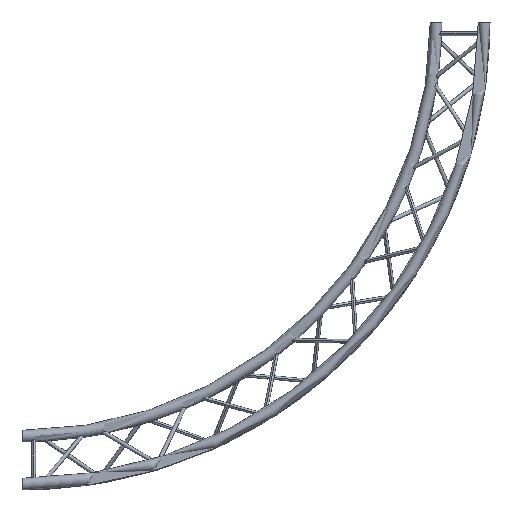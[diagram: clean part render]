
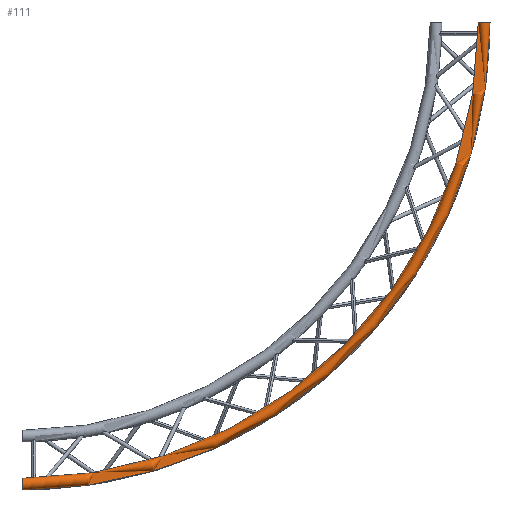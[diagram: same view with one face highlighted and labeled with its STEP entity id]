
A CAD part, front view. The second image highlights one B-rep face of the part: STEP entity #111.
In plain terms, the highlighted toroidal (fillet/blend) face has major radius 1975 mm and minor radius 25 mm.
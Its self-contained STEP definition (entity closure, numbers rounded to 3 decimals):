
#111 = ADVANCED_FACE ( 'NONE', ( #1879 ), #1910, .T. ) ;
#124 = EDGE_LOOP ( 'NONE', ( #151, #158, #159, #2348 ) ) ;
#151 = ORIENTED_EDGE ( 'NONE', *, *, #8514, .T. ) ;
#152 = VERTEX_POINT ( 'NONE', #2179 ) ;
#158 = ORIENTED_EDGE ( 'NONE', *, *, #4381, .T. ) ;
#159 = ORIENTED_EDGE ( 'NONE', *, *, #162, .F. ) ;
#162 = EDGE_CURVE ( 'NONE', #163, #4411, #1903, .T. ) ;
#163 = VERTEX_POINT ( 'NONE', #2278 ) ;
#1879 = FACE_OUTER_BOUND ( 'NONE', #124, .T. ) ;
#1899 = DIRECTION ( 'NONE',  ( 0., 0., 1. ) ) ;
#1900 = CARTESIAN_POINT ( 'NONE',  ( 1975., -118.5, 0. ) ) ;
#1902 = AXIS2_PLACEMENT_3D ( 'NONE', #1900, #1899, #2170 ) ;
#1903 = CIRCLE ( 'NONE', #1902, 25. ) ;
#1905 = DIRECTION ( 'NONE',  ( 0., 0., -1. ) ) ;
#1906 = DIRECTION ( 'NONE',  ( 0., -1., 0. ) ) ;
#1907 = AXIS2_PLACEMENT_3D ( 'NONE', #1909, #1906, #1905 ) ;
#1909 = CARTESIAN_POINT ( 'NONE',  ( 0., -118.5, 0. ) ) ;
#1910 = TOROIDAL_SURFACE ( 'NONE', #1907, 1975., 25. ) ;
#2170 = DIRECTION ( 'NONE',  ( 1., 0., 0. ) ) ;
#2179 = CARTESIAN_POINT ( 'NONE',  ( 0., -118.5, -1950. ) ) ;
#2278 = CARTESIAN_POINT ( 'NONE',  ( 1950., -118.5, 0. ) ) ;
#2348 = ORIENTED_EDGE ( 'NONE', *, *, #7349, .F. ) ;
#4381 = EDGE_CURVE ( 'NONE', #7504, #4411, #5443, .T. ) ;
#4411 = VERTEX_POINT ( 'NONE', #5482 ) ;
#5443 = CIRCLE ( 'NONE', #5486, 2000. ) ;
#5482 = CARTESIAN_POINT ( 'NONE',  ( 2000., -118.5, 0. ) ) ;
#5483 = DIRECTION ( 'NONE',  ( 0., 0., -1. ) ) ;
#5484 = DIRECTION ( 'NONE',  ( 0., -1., 0. ) ) ;
#5485 = CARTESIAN_POINT ( 'NONE',  ( 0., -118.5, 0. ) ) ;
#5486 = AXIS2_PLACEMENT_3D ( 'NONE', #5485, #5484, #5483 ) ;
#5884 = CARTESIAN_POINT ( 'NONE',  ( 0., -118.5, -2000. ) ) ;
#5885 = DIRECTION ( 'NONE',  ( 0., 0., -1. ) ) ;
#5886 = DIRECTION ( 'NONE',  ( 0., -1., 0. ) ) ;
#5887 = CARTESIAN_POINT ( 'NONE',  ( 0., -118.5, 0. ) ) ;
#5888 = AXIS2_PLACEMENT_3D ( 'NONE', #5887, #5886, #5885 ) ;
#5889 = CIRCLE ( 'NONE', #5888, 1950. ) ;
#5895 = DIRECTION ( 'NONE',  ( 0., 0., -1. ) ) ;
#5896 = DIRECTION ( 'NONE',  ( 1., 0., 0. ) ) ;
#5897 = CARTESIAN_POINT ( 'NONE',  ( 0., -118.5, -1975. ) ) ;
#5898 = AXIS2_PLACEMENT_3D ( 'NONE', #5897, #5896, #5895 ) ;
#5904 = CIRCLE ( 'NONE', #5898, 25. ) ;
#7349 = EDGE_CURVE ( 'NONE', #152, #163, #5889, .T. ) ;
#7504 = VERTEX_POINT ( 'NONE', #5884 ) ;
#8514 = EDGE_CURVE ( 'NONE', #152, #7504, #5904, .T. ) ;
